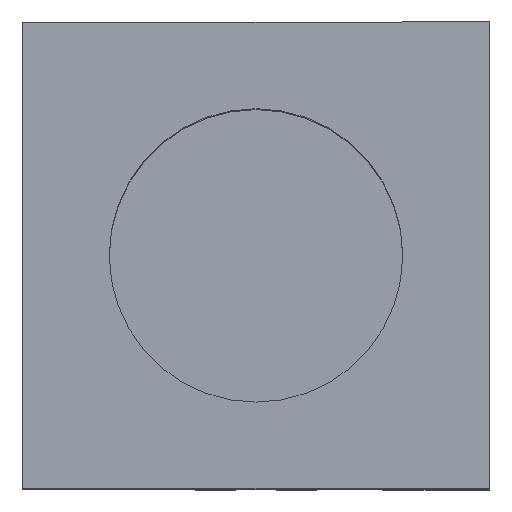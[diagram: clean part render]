
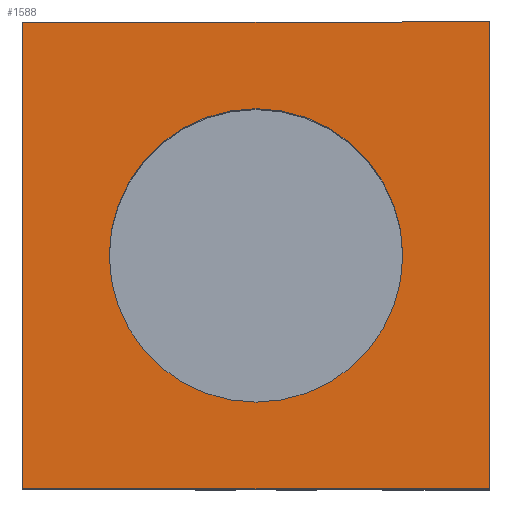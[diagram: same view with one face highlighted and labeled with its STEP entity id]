
A CAD part, top view. The second image highlights one B-rep face of the part: STEP entity #1588.
In plain terms, the highlighted planar face has unit normal (0, 0, 1).
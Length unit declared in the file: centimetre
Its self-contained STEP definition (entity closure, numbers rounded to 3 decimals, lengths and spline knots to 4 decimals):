
#20=LINE('',#2316,#196);
#24=LINE('',#2324,#200);
#27=LINE('',#2330,#203);
#30=LINE('',#2335,#206);
#196=VECTOR('',#1853,1.);
#200=VECTOR('',#1859,1.);
#203=VECTOR('',#1864,1.);
#206=VECTOR('',#1869,1.);
#381=PLANE('',#1697);
#457=FACE_BOUND('',#646,.T.);
#500=CIRCLE('',#1692,1.1);
#542=FACE_OUTER_BOUND('',#645,.T.);
#645=EDGE_LOOP('',(#1162,#1163,#1164,#1165));
#646=EDGE_LOOP('',(#1166));
#767=VERTEX_POINT('',#2311);
#768=VERTEX_POINT('',#2314);
#769=VERTEX_POINT('',#2315);
#772=VERTEX_POINT('',#2323);
#774=VERTEX_POINT('',#2329);
#922=EDGE_CURVE('',#767,#767,#500,.T.);
#923=EDGE_CURVE('',#768,#769,#20,.T.);
#927=EDGE_CURVE('',#772,#768,#24,.T.);
#930=EDGE_CURVE('',#774,#772,#27,.T.);
#933=EDGE_CURVE('',#769,#774,#30,.T.);
#1162=ORIENTED_EDGE('',*,*,#933,.F.);
#1163=ORIENTED_EDGE('',*,*,#923,.F.);
#1164=ORIENTED_EDGE('',*,*,#927,.F.);
#1165=ORIENTED_EDGE('',*,*,#930,.F.);
#1166=ORIENTED_EDGE('',*,*,#922,.T.);
#1588=ADVANCED_FACE('',(#542,#457),#381,.T.);
#1692=AXIS2_PLACEMENT_3D('',#2312,#1849,#1850);
#1697=AXIS2_PLACEMENT_3D('',#2337,#1871,#1872);
#1849=DIRECTION('center_axis',(0.,0.,
-1.));
#1850=DIRECTION('ref_axis',(0.,1.,0.));
#1853=DIRECTION('',(1.,0.,0.));
#1859=DIRECTION('',(0.,1.,0.));
#1864=DIRECTION('',(-1.,0.,0.));
#1869=DIRECTION('',(0.,-1.,0.));
#1871=DIRECTION('center_axis',(0.,0.,
1.));
#1872=DIRECTION('ref_axis',(0.,-1.,0.));
#2311=CARTESIAN_POINT('',(-3.25,-2.85,1.9));
#2312=CARTESIAN_POINT('Origin',(-3.25,-1.75,1.9));
#2314=CARTESIAN_POINT('',(-5.,0.,1.9));
#2315=CARTESIAN_POINT('',(-1.5,0.,1.9));
#2316=CARTESIAN_POINT('',(-5.,0.,1.9));
#2323=CARTESIAN_POINT('',(-5.,-3.5,1.9));
#2324=CARTESIAN_POINT('',(-5.,-3.5,1.9));
#2329=CARTESIAN_POINT('',(-1.5,-3.5,1.9));
#2330=CARTESIAN_POINT('',(-1.5,-3.5,1.9));
#2335=CARTESIAN_POINT('',(-1.5,0.,1.9));
#2337=CARTESIAN_POINT('Origin',(-3.25,-1.75,1.9));
